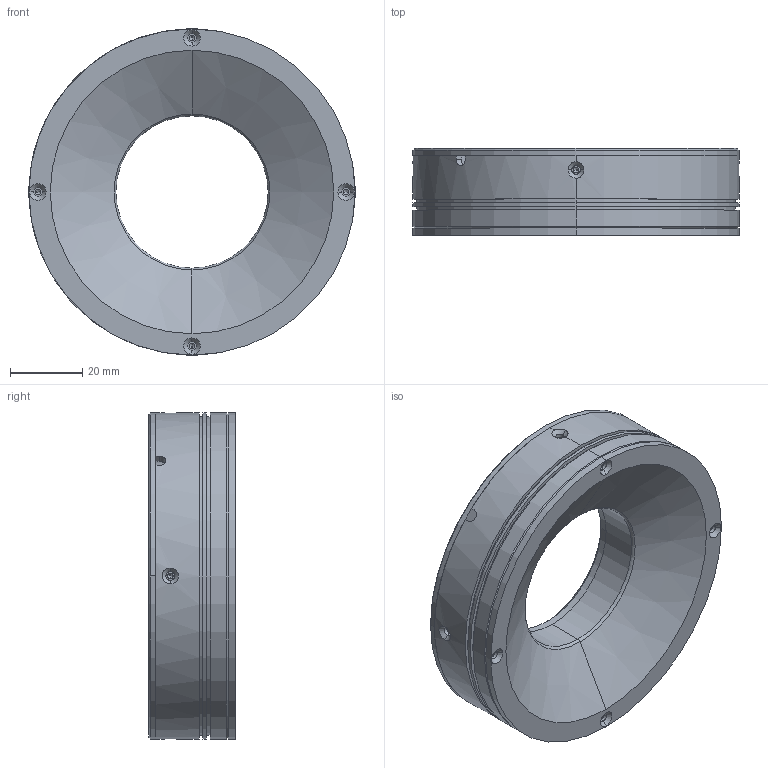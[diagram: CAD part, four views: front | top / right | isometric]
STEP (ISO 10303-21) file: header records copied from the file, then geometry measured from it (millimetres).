
FILE_DESCRIPTION (( 'STEP AP203' ), '1' );
FILE_NAME ('P-RL-90-60-S-00.STEP', '2025-09-17T01:49:51', ( '' ), ( '' ), 'SwSTEP 2.0', 'SolidWorks 2022', '' );
FILE_SCHEMA (( 'CONFIG_CONTROL_DESIGN' ));
Length unit declared in the file: millimetre
Products named in the file (4): P-RL-90-60-S-00; DFP-RL-90-60-S; P-RL-90-60-S-001; P-RL-90-60-S-002
Assembly tree (3 placements, depth 2):
  P-RL-90-60-S-00
    DFP-RL-90-60-S
    P-RL-90-60-S-001
    P-RL-90-60-S-002
Bounding box: 90 x 24 x 90 mm (x, y, z)
Volume: 52576.1 mm3; surface area: 42684.2 mm2
Topology: 3 solids, 3 shells, 157 faces, 386 edges, 226 vertices
Faces by surface type: cylinder 77, cone 57, plane 19, torus 4
Entity records: 5418 total; most frequent: CARTESIAN_POINT 1339, DIRECTION 816, ORIENTED_EDGE 724, EDGE_CURVE 362, AXIS2_PLACEMENT_3D 335, VERTEX_POINT 226, EDGE_LOOP 194, CIRCLE 172
